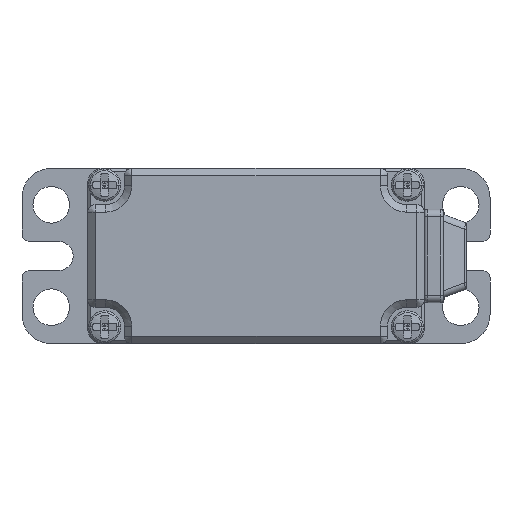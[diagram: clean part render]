
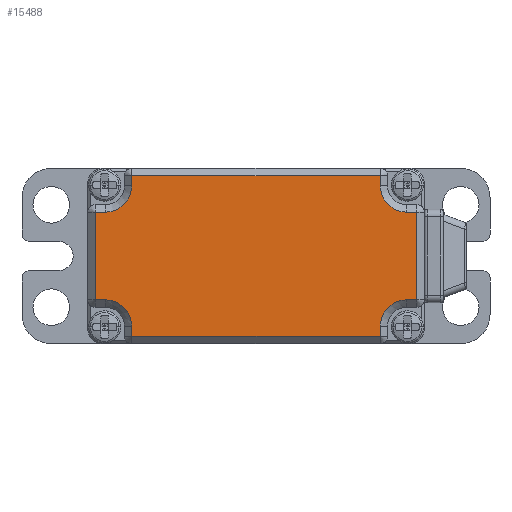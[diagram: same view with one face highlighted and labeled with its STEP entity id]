
A CAD part, front view. The second image highlights one B-rep face of the part: STEP entity #15488.
In plain terms, the highlighted planar face has unit normal (0, -1, 0).
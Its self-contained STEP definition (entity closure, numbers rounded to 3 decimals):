
#4473=DIRECTION('',(1.,0.,0.));
#4474=VECTOR('',#4473,0.7);
#4475=CARTESIAN_POINT('',(10.3,-19.4,3.));
#4476=LINE('',#4475,#4474);
#4477=DIRECTION('',(0.,0.,-1.));
#4478=VECTOR('',#4477,6.);
#4479=CARTESIAN_POINT('',(11.,-19.4,3.));
#4480=LINE('',#4479,#4478);
#4481=DIRECTION('',(-1.,0.,0.));
#4482=VECTOR('',#4481,0.7);
#4483=CARTESIAN_POINT('',(11.,-19.4,
-3.));
#4484=LINE('',#4483,#4482);
#4485=CARTESIAN_POINT('',(10.3,-19.4,-4.8));
#4486=DIRECTION('',(0.,-1.,0.));
#4487=DIRECTION('',(0.,0.,1.));
#4488=AXIS2_PLACEMENT_3D('',#4485,#4486,#4487);
#4490=DIRECTION('',(0.,0.,-1.));
#4491=VECTOR('',#4490,0.7);
#4492=CARTESIAN_POINT('',(8.5,-19.4,
-4.8));
#4493=LINE('',#4492,#4491);
#4494=DIRECTION('',(-1.,0.,0.));
#4495=VECTOR('',#4494,17.);
#4496=CARTESIAN_POINT('',(8.5,-19.4,
-5.5));
#4497=LINE('',#4496,#4495);
#4498=DIRECTION('',(0.,0.,1.));
#4499=VECTOR('',#4498,0.7);
#4500=CARTESIAN_POINT('',(-8.5,-19.4,
-5.5));
#4501=LINE('',#4500,#4499);
#4502=CARTESIAN_POINT('',(-10.3,-19.4,-4.8));
#4503=DIRECTION('',(0.,-1.,0.));
#4504=DIRECTION('',(1.,0.,0.));
#4505=AXIS2_PLACEMENT_3D('',#4502,#4503,#4504);
#4507=DIRECTION('',(-1.,0.,0.));
#4508=VECTOR('',#4507,0.7);
#4509=CARTESIAN_POINT('',(-10.3,-19.4,
-3.));
#4510=LINE('',#4509,#4508);
#4511=DIRECTION('',(0.,0.,1.));
#4512=VECTOR('',#4511,6.);
#4513=CARTESIAN_POINT('',(-11.,-19.4,
-3.));
#4514=LINE('',#4513,#4512);
#4515=DIRECTION('',(1.,0.,0.));
#4516=VECTOR('',#4515,0.7);
#4517=CARTESIAN_POINT('',(-11.,-19.4,
3.));
#4518=LINE('',#4517,#4516);
#4519=CARTESIAN_POINT('',(-10.3,-19.4,4.8));
#4520=DIRECTION('',(0.,-1.,0.));
#4521=DIRECTION('',(0.,0.,-1.));
#4522=AXIS2_PLACEMENT_3D('',#4519,#4520,#4521);
#4524=DIRECTION('',(0.,0.,1.));
#4525=VECTOR('',#4524,0.7);
#4526=CARTESIAN_POINT('',(-8.5,-19.4,
4.8));
#4527=LINE('',#4526,#4525);
#4528=DIRECTION('',(1.,0.,0.));
#4529=VECTOR('',#4528,17.);
#4530=CARTESIAN_POINT('',(-8.5,-19.4,
5.5));
#4531=LINE('',#4530,#4529);
#4532=DIRECTION('',(0.,0.,-1.));
#4533=VECTOR('',#4532,0.7);
#4534=CARTESIAN_POINT('',(8.5,-19.4,5.5));
#4535=LINE('',#4534,#4533);
#4536=CARTESIAN_POINT('',(10.3,-19.4,4.8));
#4537=DIRECTION('',(0.,-1.,0.));
#4538=DIRECTION('',(-1.,0.,0.));
#4539=AXIS2_PLACEMENT_3D('',#4536,#4537,#4538);
#9123=CARTESIAN_POINT('',(-8.5,-19.4,
-5.5));
#9124=CARTESIAN_POINT('',(-8.5,-19.4,
-4.8));
#9125=VERTEX_POINT('',#9123);
#9126=VERTEX_POINT('',#9124);
#9127=CARTESIAN_POINT('',(10.3,-19.4,3.));
#9128=CARTESIAN_POINT('',(11.,-19.4,3.));
#9129=VERTEX_POINT('',#9127);
#9130=VERTEX_POINT('',#9128);
#9131=CARTESIAN_POINT('',(11.,-19.4,
-3.));
#9132=VERTEX_POINT('',#9131);
#9133=CARTESIAN_POINT('',(10.3,-19.4,
-3.));
#9134=VERTEX_POINT('',#9133);
#9135=CARTESIAN_POINT('',(8.5,-19.4,-4.8));
#9136=VERTEX_POINT('',#9135);
#9137=CARTESIAN_POINT('',(8.5,-19.4,
-5.5));
#9138=VERTEX_POINT('',#9137);
#9139=CARTESIAN_POINT('',(-10.3,-19.4,-3.));
#9140=VERTEX_POINT('',#9139);
#9141=CARTESIAN_POINT('',(-11.,-19.4,
-3.));
#9142=VERTEX_POINT('',#9141);
#9143=CARTESIAN_POINT('',(-11.,-19.4,
3.));
#9144=VERTEX_POINT('',#9143);
#9145=CARTESIAN_POINT('',(-10.3,-19.4,
3.));
#9146=VERTEX_POINT('',#9145);
#9147=CARTESIAN_POINT('',(-8.5,-19.4,4.8));
#9148=VERTEX_POINT('',#9147);
#9149=CARTESIAN_POINT('',(-8.5,-19.4,
5.5));
#9150=VERTEX_POINT('',#9149);
#9151=CARTESIAN_POINT('',(8.5,-19.4,5.5));
#9152=VERTEX_POINT('',#9151);
#9153=CARTESIAN_POINT('',(8.5,-19.4,4.8));
#9154=VERTEX_POINT('',#9153);
#15450=CARTESIAN_POINT('',(0.,-19.4,0.));
#15451=DIRECTION('',(0.,1.,0.));
#15452=DIRECTION('',(1.,0.,0.));
#15453=AXIS2_PLACEMENT_3D('',#15450,#15451,#15452);
#15454=PLANE('',#15453);
#15456=ORIENTED_EDGE('',*,*,#15455,.T.);
#15458=ORIENTED_EDGE('',*,*,#15457,.T.);
#15460=ORIENTED_EDGE('',*,*,#15459,.T.);
#15462=ORIENTED_EDGE('',*,*,#15461,.T.);
#15464=ORIENTED_EDGE('',*,*,#15463,.T.);
#15466=ORIENTED_EDGE('',*,*,#15465,.T.);
#15468=ORIENTED_EDGE('',*,*,#15467,.T.);
#15470=ORIENTED_EDGE('',*,*,#15469,.T.);
#15472=ORIENTED_EDGE('',*,*,#15471,.T.);
#15474=ORIENTED_EDGE('',*,*,#15473,.T.);
#15475=ORIENTED_EDGE('',*,*,#15440,.T.);
#15477=ORIENTED_EDGE('',*,*,#15476,.T.);
#15479=ORIENTED_EDGE('',*,*,#15478,.T.);
#15481=ORIENTED_EDGE('',*,*,#15480,.T.);
#15483=ORIENTED_EDGE('',*,*,#15482,.T.);
#15485=ORIENTED_EDGE('',*,*,#15484,.T.);
#15486=EDGE_LOOP('',(#15456,#15458,#15460,#15462,#15464,#15466,#15468,#15470,
#15472,#15474,#15475,#15477,#15479,#15481,#15483,#15485));
#15487=FACE_OUTER_BOUND('',#15486,.F.);
#4489=CIRCLE('',#4488,1.8);
#4506=CIRCLE('',#4505,1.8);
#4523=CIRCLE('',#4522,1.8);
#4540=CIRCLE('',#4539,1.8);
#15440=EDGE_CURVE('',#9144,#9146,#4518,.T.);
#15455=EDGE_CURVE('',#9129,#9130,#4476,.T.);
#15457=EDGE_CURVE('',#9130,#9132,#4480,.T.);
#15459=EDGE_CURVE('',#9132,#9134,#4484,.T.);
#15461=EDGE_CURVE('',#9134,#9136,#4489,.T.);
#15463=EDGE_CURVE('',#9136,#9138,#4493,.T.);
#15465=EDGE_CURVE('',#9138,#9125,#4497,.T.);
#15467=EDGE_CURVE('',#9125,#9126,#4501,.T.);
#15469=EDGE_CURVE('',#9126,#9140,#4506,.T.);
#15471=EDGE_CURVE('',#9140,#9142,#4510,.T.);
#15473=EDGE_CURVE('',#9142,#9144,#4514,.T.);
#15476=EDGE_CURVE('',#9146,#9148,#4523,.T.);
#15478=EDGE_CURVE('',#9148,#9150,#4527,.T.);
#15480=EDGE_CURVE('',#9150,#9152,#4531,.T.);
#15482=EDGE_CURVE('',#9152,#9154,#4535,.T.);
#15484=EDGE_CURVE('',#9154,#9129,#4540,.T.);
#15488=ADVANCED_FACE('',(#15487),#15454,.F.);
